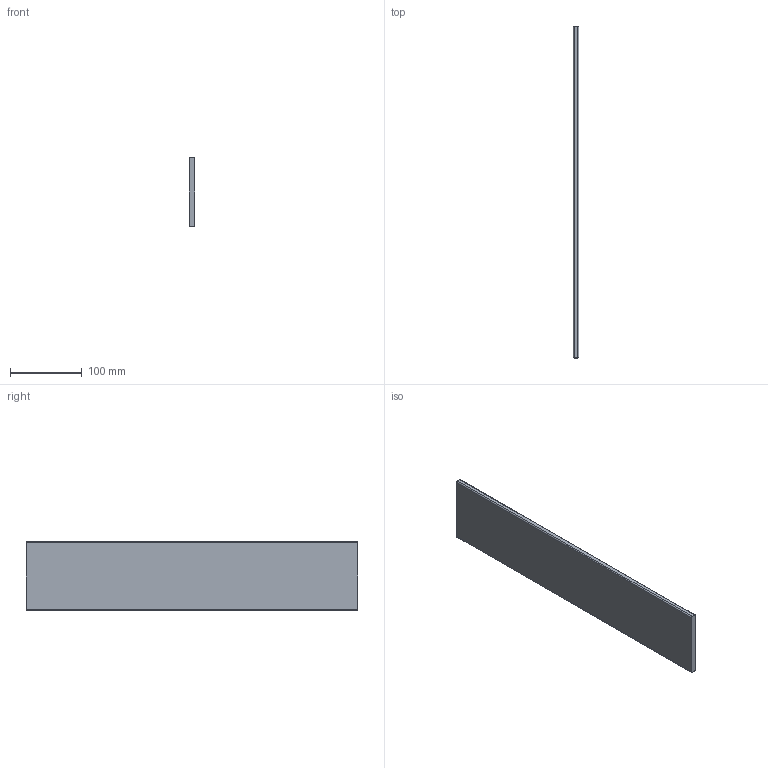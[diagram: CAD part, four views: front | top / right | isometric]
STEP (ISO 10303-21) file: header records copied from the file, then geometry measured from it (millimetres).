
FILE_DESCRIPTION (( 'STEP AP214' ), '1' );
FILE_NAME ('Einschubelement_Crystal_NL-500.step', '2010-10-06T11:41:40', ( 'grass' ), ( '' ), 'SwSTEP 2.0', 'SolidWorks 2010', '' );
FILE_SCHEMA (( 'AUTOMOTIVE_DESIGN' ));
Length unit declared in the file: millimetre
Products named in the file (1): Einschubelement_Crystal_NL-500
Bounding box: 7.8 x 463 x 95.8 mm (x, y, z)
Volume: 344954.7 mm3; surface area: 96151.9 mm2
Topology: 1 solids, 1 shells, 10 faces, 24 edges, 16 vertices
Faces by surface type: plane 6, cylinder 4
Entity records: 330 total; most frequent: DIRECTION 54, CARTESIAN_POINT 51, ORIENTED_EDGE 48, EDGE_CURVE 24, AXIS2_PLACEMENT_3D 19, VERTEX_POINT 16, LINE 16, VECTOR 16
